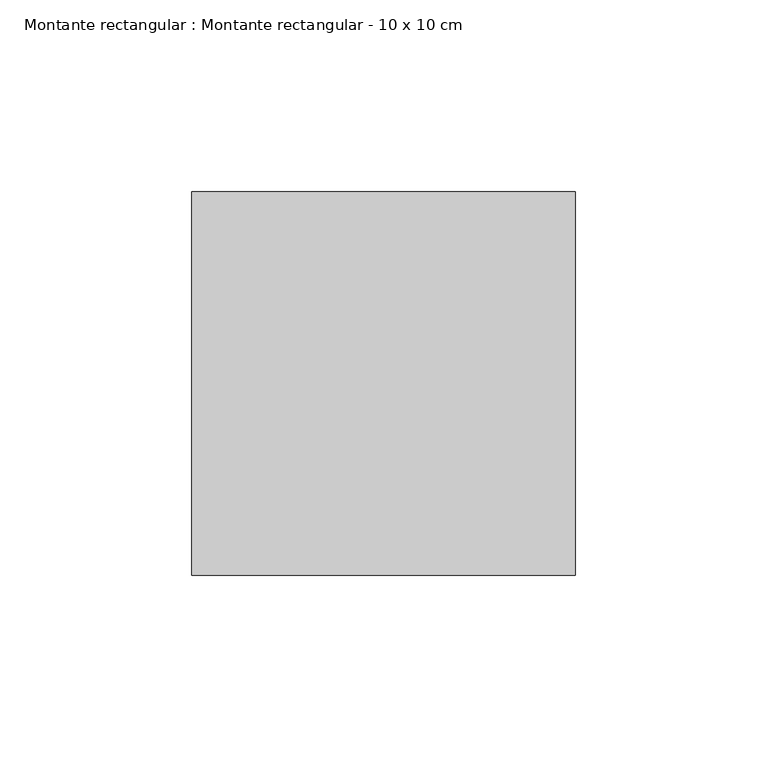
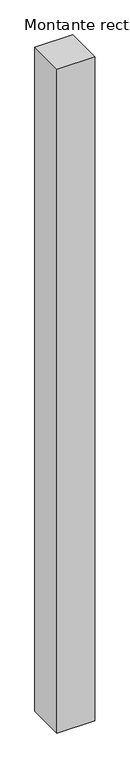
"""IFC4 building model written with IfcOpenShell, lengths in millimetres: member geometry, Montante rectangular : Montante rectangular - 10 x 10 cm."""

from ifc_helpers import new_model, si_unit, frame, origin, place, context, project, spatial, polyline, outline, extrude, source, transform, mapped, element, save


def montante_rectangular_montante_rectangular_10_x_10_cm_853d8368(model_context):
    return source(origin(), model_context, "Body", "SweptSolid", [
        extrude(outline(polyline([(-100.0, -50.0), (-100.0, 50.0), (0.0, 50.0), (0.0, -50.0), (-100.0, -50.0)])), frame((0.0, 0.0, -1850.0), z_axis=(0.0, 0.0, 1.0), x_axis=(1.0, 0.0, 0.0)), (0.0, 0.0, 1.0), 1850.0),
    ])


if __name__ == "__main__":
    model = new_model("IFC4")
    model_context = context("Model", 3, world=origin())
    ifc_project = project(units=[si_unit("LENGTHUNIT", "METRE", prefix="MILLI")], contexts=[model_context])
    site = spatial("IfcSite", under=ifc_project)
    building = spatial("IfcBuilding", under=site)
    placement = place(None, origin())
    montante_rectangular_montante_rectangular_10_x_10_cm_shape = montante_rectangular_montante_rectangular_10_x_10_cm_853d8368(model_context)
    element("IfcMember", 1, ObjectType="Montante rectangular : Montante rectangular - 10 x 10 cm", at=placement, inside=building, context=model_context, shape_type="MappedRepresentation", body=[
        mapped(montante_rectangular_montante_rectangular_10_x_10_cm_shape, transform((0.0, 0.0, 0.0), x_axis=(1.0, 0.0, 0.0), y_axis=(0.0, 1.0, 0.0), z_axis=(0.0, 0.0, 1.0))),
    ])
    save(model, "model.ifc")
